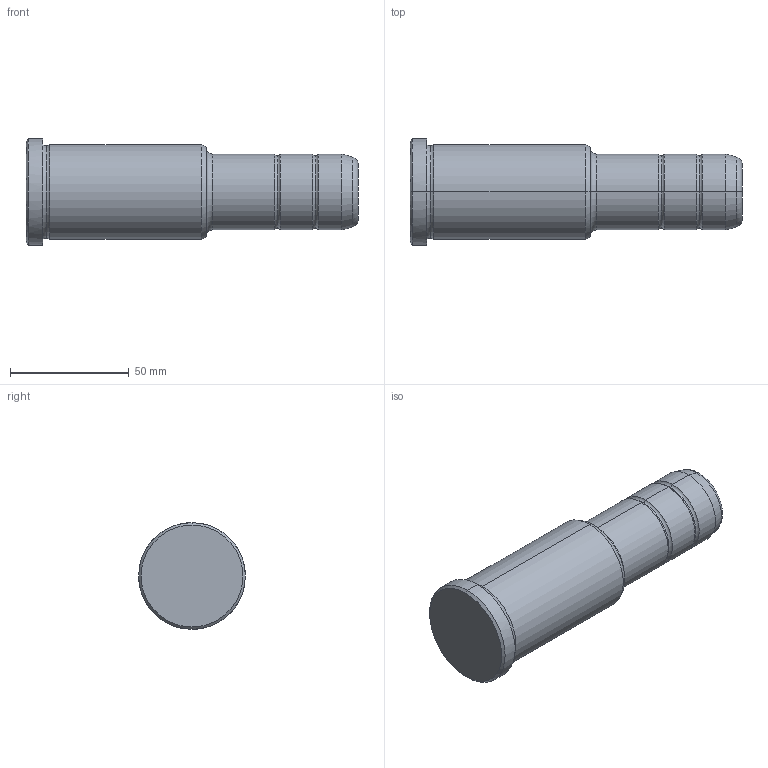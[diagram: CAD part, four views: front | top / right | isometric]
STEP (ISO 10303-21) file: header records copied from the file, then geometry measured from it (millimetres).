
FILE_DESCRIPTION(('CATIA V5 STEP Exchange'),'2;1');
FILE_NAME('C:\Users\Utente\Desktop\IO LAVORO\3D X SITO CF\X SITO\PLASTICA\351\351-32X76X140.stp','2021-09-07T13:56:04+00:00',('none'),('none'),'CATIA Version 5 Release 20 GA (IN-10)','CATIA V5 STEP AP203','none');
FILE_SCHEMA(('CONFIG_CONTROL_DESIGN'));
Length unit declared in the file: millimetre
Products named in the file (1): 351-32X76X140
Bounding box: 140 x 45 x 45 mm (x, y, z)
Volume: 148107.6 mm3; surface area: 18845.9 mm2
Topology: 1 solids, 1 shells, 36 faces, 102 edges, 70 vertices
Faces by surface type: torus 16, cylinder 10, cone 6, plane 4
Entity records: 1292 total; most frequent: CARTESIAN_POINT 321, ORIENTED_EDGE 204, DIRECTION 166, AXIS2_PLACEMENT_3D 115, EDGE_CURVE 102, CIRCLE 78, VERTEX_POINT 70, EDGE_LOOP 38
